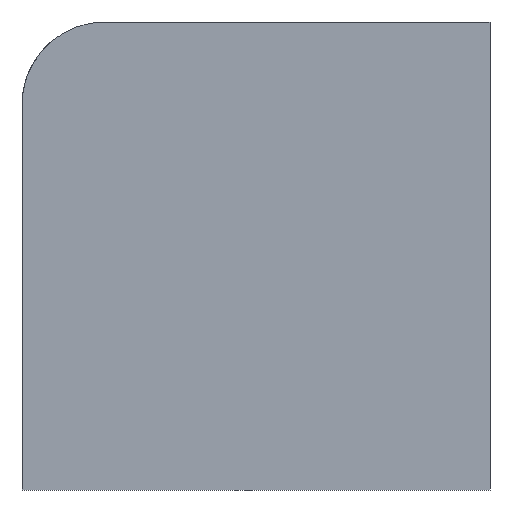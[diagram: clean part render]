
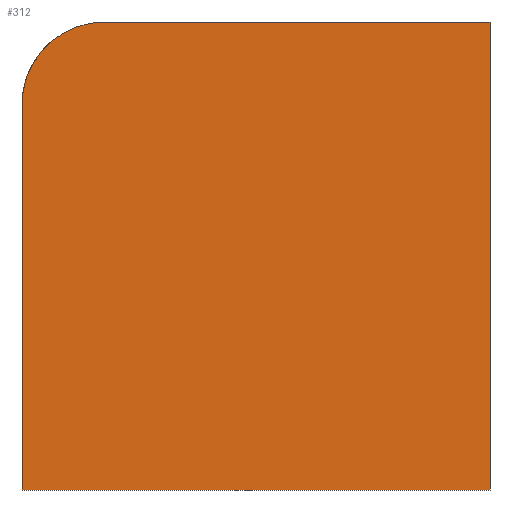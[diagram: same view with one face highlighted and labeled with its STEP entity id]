
A CAD part, front view. The second image highlights one B-rep face of the part: STEP entity #312.
In plain terms, the highlighted planar face has unit normal (0, -1, 0).
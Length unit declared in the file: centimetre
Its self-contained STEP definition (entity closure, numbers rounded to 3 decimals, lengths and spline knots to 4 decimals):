
#17 = CARTESIAN_POINT ( 'NONE',  ( 0., 0., 1000. ) ) ;
#26 = CARTESIAN_POINT ( 'NONE',  ( 0., 0., 0. ) ) ;
#45 = LINE ( 'NONE', #361, #174 ) ;
#65 = EDGE_CURVE ( 'NONE', #196, #154, #588, .T. ) ;
#70 = DIRECTION ( 'NONE',  ( 1., 0., 0. ) ) ;
#72 = DIRECTION ( 'NONE',  ( 1., 0., 0. ) ) ;
#84 = VECTOR ( 'NONE', #70, 100. ) ;
#85 = DIRECTION ( 'NONE',  ( 0., 0., 1. ) ) ;
#88 = CARTESIAN_POINT ( 'NONE',  ( 177.0803, 0., 1000. ) ) ;
#102 = VECTOR ( 'NONE', #72, 100. ) ;
#144 = VECTOR ( 'NONE', #439, 100. ) ;
#154 = VERTEX_POINT ( 'NONE', #488 ) ;
#155 = EDGE_CURVE ( 'NONE', #328, #284, #259, .T. ) ;
#161 = EDGE_CURVE ( 'NONE', #196, #328, #477, .T. ) ;
#174 = VECTOR ( 'NONE', #553, 100. ) ;
#194 = ORIENTED_EDGE ( 'NONE', *, *, #436, .F. ) ;
#196 = VERTEX_POINT ( 'NONE', #88 ) ;
#247 = VERTEX_POINT ( 'NONE', #606 ) ;
#255 = CARTESIAN_POINT ( 'NONE',  ( 0., 0., 1000. ) ) ;
#256 = ORIENTED_EDGE ( 'NONE', *, *, #161, .T. ) ;
#259 = LINE ( 'NONE', #255, #144 ) ;
#271 = CARTESIAN_POINT ( 'NONE',  ( 0., 0., 0. ) ) ;
#282 = DIRECTION ( 'NONE',  ( 0., 1., 0. ) ) ;
#284 = VERTEX_POINT ( 'NONE', #271 ) ;
#312 = ADVANCED_FACE ( 'NONE', ( #497 ), #416, .F. ) ;
#328 = VERTEX_POINT ( 'NONE', #401 ) ;
#361 = CARTESIAN_POINT ( 'NONE',  ( 1000., 0., 1000. ) ) ;
#370 = DIRECTION ( 'NONE',  ( 0., -1., 0. ) ) ;
#395 = CARTESIAN_POINT ( 'NONE',  ( 177.0803, 0., 822.9197 ) ) ;
#401 = CARTESIAN_POINT ( 'NONE',  ( 0., 0., 822.9197 ) ) ;
#409 = DIRECTION ( 'NONE',  ( 0., 0., 1. ) ) ;
#416 = PLANE ( 'NONE',  #550 ) ;
#435 = ORIENTED_EDGE ( 'NONE', *, *, #602, .T. ) ;
#436 = EDGE_CURVE ( 'NONE', #154, #247, #45, .T. ) ;
#439 = DIRECTION ( 'NONE',  ( 0., 0., -1. ) ) ;
#443 = ORIENTED_EDGE ( 'NONE', *, *, #65, .F. ) ;
#445 = LINE ( 'NONE', #26, #84 ) ;
#465 = ORIENTED_EDGE ( 'NONE', *, *, #155, .T. ) ;
#477 = CIRCLE ( 'NONE', #570, 177.0803 ) ;
#488 = CARTESIAN_POINT ( 'NONE',  ( 1000., 0., 1000. ) ) ;
#497 = FACE_OUTER_BOUND ( 'NONE', #520, .T. ) ;
#520 = EDGE_LOOP ( 'NONE', ( #443, #256, #465, #435, #194 ) ) ;
#550 = AXIS2_PLACEMENT_3D ( 'NONE', #558, #282, #409 ) ;
#553 = DIRECTION ( 'NONE',  ( 0., 0., -1. ) ) ;
#558 = CARTESIAN_POINT ( 'NONE',  ( 0., 0., 1000. ) ) ;
#570 = AXIS2_PLACEMENT_3D ( 'NONE', #395, #370, #85 ) ;
#588 = LINE ( 'NONE', #17, #102 ) ;
#602 = EDGE_CURVE ( 'NONE', #284, #247, #445, .T. ) ;
#606 = CARTESIAN_POINT ( 'NONE',  ( 1000., 0., 0. ) ) ;
